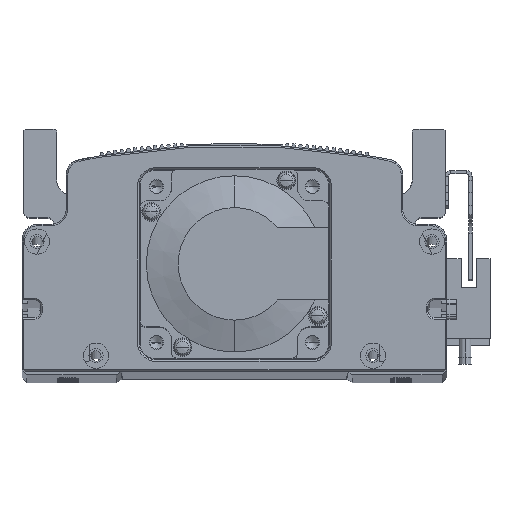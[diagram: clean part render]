
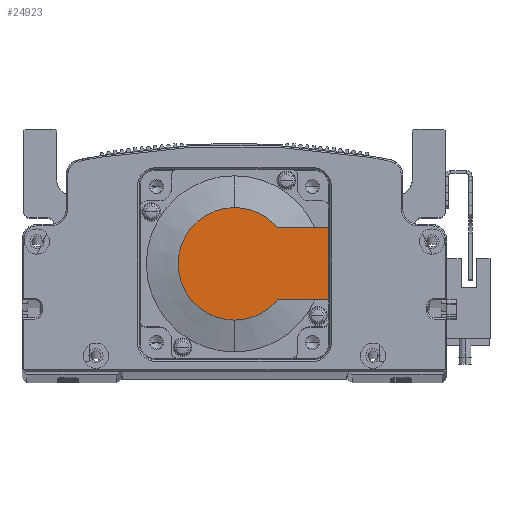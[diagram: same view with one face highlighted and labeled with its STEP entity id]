
A CAD part, top view. The second image highlights one B-rep face of the part: STEP entity #24923.
In plain terms, the highlighted planar face has unit normal (0, 0, 1) as drawn and (-1, 0, 0) by its records, which use the part's own axes.
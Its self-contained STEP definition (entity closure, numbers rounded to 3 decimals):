
#136 = LINE ( 'NONE', #70061, #52952 ) ;
#610 = CIRCLE ( 'NONE', #2907, 17.881 ) ;
#1962 = CARTESIAN_POINT ( 'NONE',  ( -118.5, -8.941, -11.45 ) ) ;
#2148 = DIRECTION ( 'NONE',  ( 0., 0., -1. ) ) ;
#2907 = AXIS2_PLACEMENT_3D ( 'NONE', #5242, #17163, #22468 ) ;
#5242 = CARTESIAN_POINT ( 'NONE',  ( -118.5, 0., 0. ) ) ;
#12185 = VECTOR ( 'NONE', #34614, 1000. ) ;
#15052 = FACE_OUTER_BOUND ( 'NONE', #34169, .T. ) ;
#17163 = DIRECTION ( 'NONE',  ( -1., 0., 0. ) ) ;
#19730 = DIRECTION ( 'NONE',  ( 0., 0., -1. ) ) ;
#20769 = ORIENTED_EDGE ( 'NONE', *, *, #47165, .T. ) ;
#22468 = DIRECTION ( 'NONE',  ( 0., 0., -1. ) ) ;
#23312 = DIRECTION ( 'NONE',  ( -1., 0., 0. ) ) ;
#24923 = ADVANCED_FACE ( 'NONE', ( #15052 ), #39223, .T. ) ;
#25551 = DIRECTION ( 'NONE',  ( -1., 0., 0. ) ) ;
#27222 = EDGE_CURVE ( 'NONE', #45186, #61934, #54417, .T. ) ;
#30893 = AXIS2_PLACEMENT_3D ( 'NONE', #61206, #61690, #39462 ) ;
#31488 = ORIENTED_EDGE ( 'NONE', *, *, #53919, .F. ) ;
#32152 = CARTESIAN_POINT ( 'NONE',  ( -118.5, 30., -11.45 ) ) ;
#33597 = EDGE_CURVE ( 'NONE', #61934, #45787, #610, .T. ) ;
#34169 = EDGE_LOOP ( 'NONE', ( #20769, #54189, #65485, #59574, #69626, #31488 ) ) ;
#34614 = DIRECTION ( 'NONE',  ( 0., 0., 1. ) ) ;
#34813 = CARTESIAN_POINT ( 'NONE',  ( -118.5, 13.735, 11.45 ) ) ;
#35096 = CARTESIAN_POINT ( 'NONE',  ( -118.5, 0., -17.881 ) ) ;
#37241 = EDGE_CURVE ( 'NONE', #58091, #67950, #136, .T. ) ;
#39223 = PLANE ( 'NONE',  #30893 ) ;
#39462 = DIRECTION ( 'NONE',  ( 0., 0., 1. ) ) ;
#40728 = CARTESIAN_POINT ( 'NONE',  ( -118.5, 0., 0. ) ) ;
#45186 = VERTEX_POINT ( 'NONE', #64955 ) ;
#45787 = VERTEX_POINT ( 'NONE', #55170 ) ;
#47138 = AXIS2_PLACEMENT_3D ( 'NONE', #62293, #25551, #19730 ) ;
#47165 = EDGE_CURVE ( 'NONE', #71425, #45186, #62052, .T. ) ;
#47271 = VECTOR ( 'NONE', #56914, 1000. ) ;
#48746 = DIRECTION ( 'NONE',  ( 0., -1., 0. ) ) ;
#51095 = LINE ( 'NONE', #67464, #12185 ) ;
#52952 = VECTOR ( 'NONE', #48746, 1000. ) ;
#53919 = EDGE_CURVE ( 'NONE', #71425, #58091, #51095, .T. ) ;
#54189 = ORIENTED_EDGE ( 'NONE', *, *, #27222, .T. ) ;
#54417 = CIRCLE ( 'NONE', #47138, 17.881 ) ;
#55170 = CARTESIAN_POINT ( 'NONE',  ( -118.5, 0., 17.881 ) ) ;
#56914 = DIRECTION ( 'NONE',  ( 0., -1., 0. ) ) ;
#58091 = VERTEX_POINT ( 'NONE', #60769 ) ;
#59574 = ORIENTED_EDGE ( 'NONE', *, *, #68862, .T. ) ;
#60769 = CARTESIAN_POINT ( 'NONE',  ( -118.5, 30., 11.45 ) ) ;
#61206 = CARTESIAN_POINT ( 'NONE',  ( -118.5, -8.941, 0. ) ) ;
#61690 = DIRECTION ( 'NONE',  ( -1., 0., 0. ) ) ;
#61934 = VERTEX_POINT ( 'NONE', #35096 ) ;
#62052 = LINE ( 'NONE', #1962, #47271 ) ;
#62293 = CARTESIAN_POINT ( 'NONE',  ( -118.5, 0., 0. ) ) ;
#62966 = AXIS2_PLACEMENT_3D ( 'NONE', #40728, #23312, #2148 ) ;
#64955 = CARTESIAN_POINT ( 'NONE',  ( -118.5, 13.735, -11.45 ) ) ;
#65485 = ORIENTED_EDGE ( 'NONE', *, *, #33597, .T. ) ;
#67464 = CARTESIAN_POINT ( 'NONE',  ( -118.5, 30., 25. ) ) ;
#67950 = VERTEX_POINT ( 'NONE', #34813 ) ;
#68618 = CIRCLE ( 'NONE', #62966, 17.881 ) ;
#68862 = EDGE_CURVE ( 'NONE', #45787, #67950, #68618, .T. ) ;
#69626 = ORIENTED_EDGE ( 'NONE', *, *, #37241, .F. ) ;
#70061 = CARTESIAN_POINT ( 'NONE',  ( -118.5, 0., 11.45 ) ) ;
#71425 = VERTEX_POINT ( 'NONE', #32152 ) ;
